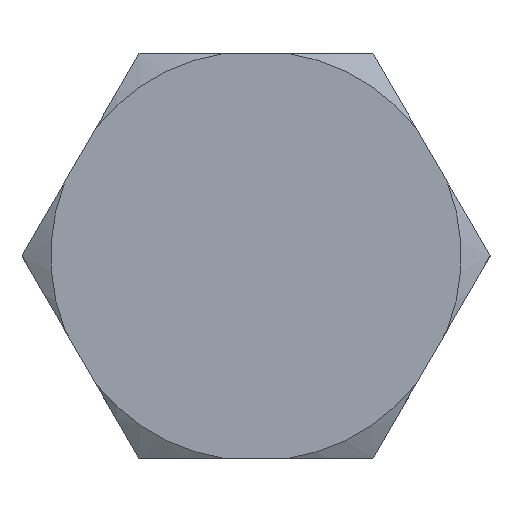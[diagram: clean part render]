
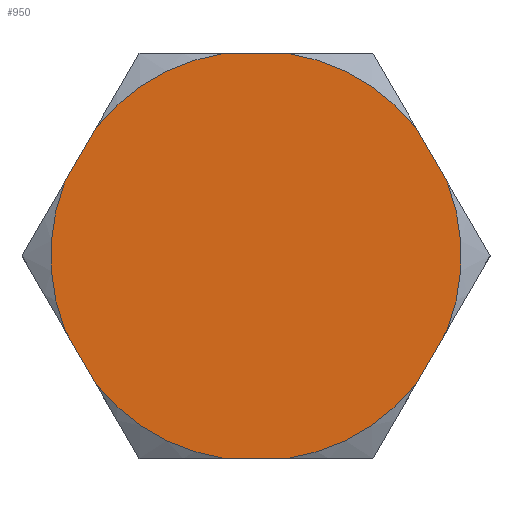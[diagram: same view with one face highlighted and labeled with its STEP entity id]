
A CAD part, top view. The second image highlights one B-rep face of the part: STEP entity #950.
In plain terms, the highlighted planar face has unit normal (0, 0, 1).
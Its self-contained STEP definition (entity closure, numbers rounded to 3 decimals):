
#164=CARTESIAN_POINT('',(-1.324,8.5,11.5));
#190=CARTESIAN_POINT('',(1.324,8.5,11.5));
#200=CARTESIAN_POINT('',(0.,0.,11.5));
#201=DIRECTION('',(0.,0.,1.));
#202=DIRECTION('',(0.933,-0.361,0.));
#203=AXIS2_PLACEMENT_3D('',#200,#201,#202);
#205=CARTESIAN_POINT('',(0.,0.,11.5));
#206=DIRECTION('',(0.,0.,1.));
#207=DIRECTION('',(-0.933,0.361,0.));
#208=AXIS2_PLACEMENT_3D('',#205,#206,#207);
#210=DIRECTION('',(0.5,0.866,0.));
#211=VECTOR('',#210,2.648);
#212=CARTESIAN_POINT('',(6.699,-5.397,11.5));
#213=LINE('',#212,#211);
#214=CARTESIAN_POINT('',(0.,0.,11.5));
#215=DIRECTION('',(0.,0.,-1.));
#216=DIRECTION('',(0.779,-0.627,0.));
#217=AXIS2_PLACEMENT_3D('',#214,#215,#216);
#219=DIRECTION('',(1.,0.,0.));
#220=VECTOR('',#219,2.648);
#221=CARTESIAN_POINT('',(-1.324,-8.5,11.5));
#222=LINE('',#221,#220);
#223=CARTESIAN_POINT('',(0.,0.,11.5));
#224=DIRECTION('',(0.,0.,-1.));
#225=DIRECTION('',(-0.154,-0.988,0.));
#226=AXIS2_PLACEMENT_3D('',#223,#224,#225);
#228=DIRECTION('',(0.5,-0.866,0.));
#229=VECTOR('',#228,2.648);
#230=CARTESIAN_POINT('',(-8.023,-3.103,11.5));
#231=LINE('',#230,#229);
#232=DIRECTION('',(-0.5,-0.866,0.));
#233=VECTOR('',#232,2.648);
#234=CARTESIAN_POINT('',(-6.699,5.397,11.5));
#235=LINE('',#234,#233);
#236=CARTESIAN_POINT('',(0.,0.,11.5));
#237=DIRECTION('',(0.,0.,-1.));
#238=DIRECTION('',(-0.779,0.627,0.));
#239=AXIS2_PLACEMENT_3D('',#236,#237,#238);
#241=DIRECTION('',(-1.,0.,0.));
#242=VECTOR('',#241,2.648);
#243=CARTESIAN_POINT('',(1.324,8.5,11.5));
#244=LINE('',#243,#242);
#245=CARTESIAN_POINT('',(0.,0.,11.5));
#246=DIRECTION('',(0.,0.,-1.));
#247=DIRECTION('',(0.154,0.988,0.));
#248=AXIS2_PLACEMENT_3D('',#245,#246,#247);
#250=DIRECTION('',(-0.5,0.866,0.));
#251=VECTOR('',#250,2.648);
#252=CARTESIAN_POINT('',(8.023,3.103,11.5));
#253=LINE('',#252,#251);
#262=CARTESIAN_POINT('',(8.023,-3.103,11.5));
#288=CARTESIAN_POINT('',(6.699,-5.397,11.5));
#306=CARTESIAN_POINT('',(6.699,5.397,11.5));
#332=CARTESIAN_POINT('',(8.023,3.103,11.5));
#350=CARTESIAN_POINT('',(1.324,-8.5,11.5));
#376=CARTESIAN_POINT('',(-1.324,-8.5,11.5));
#394=CARTESIAN_POINT('',(-6.699,-5.397,11.5));
#420=CARTESIAN_POINT('',(-8.023,-3.103,11.5));
#438=CARTESIAN_POINT('',(-8.023,3.103,11.5));
#464=CARTESIAN_POINT('',(-6.699,5.397,11.5));
#514=VERTEX_POINT('',#350);
#518=VERTEX_POINT('',#262);
#522=VERTEX_POINT('',#306);
#526=VERTEX_POINT('',#164);
#530=VERTEX_POINT('',#438);
#534=VERTEX_POINT('',#394);
#545=VERTEX_POINT('',#376);
#546=VERTEX_POINT('',#288);
#547=VERTEX_POINT('',#332);
#549=VERTEX_POINT('',#190);
#550=VERTEX_POINT('',#464);
#551=VERTEX_POINT('',#420);
#926=CARTESIAN_POINT('',(0.,0.,11.5));
#927=DIRECTION('',(0.,0.,1.));
#928=DIRECTION('',(1.,0.,0.));
#929=AXIS2_PLACEMENT_3D('',#926,#927,#928);
#930=PLANE('',#929);
#931=ORIENTED_EDGE('',*,*,#889,.F.);
#933=ORIENTED_EDGE('',*,*,#932,.F.);
#934=ORIENTED_EDGE('',*,*,#877,.T.);
#936=ORIENTED_EDGE('',*,*,#935,.F.);
#937=ORIENTED_EDGE('',*,*,#905,.T.);
#939=ORIENTED_EDGE('',*,*,#938,.F.);
#940=ORIENTED_EDGE('',*,*,#921,.F.);
#942=ORIENTED_EDGE('',*,*,#941,.F.);
#943=ORIENTED_EDGE('',*,*,#850,.T.);
#944=ORIENTED_EDGE('',*,*,#839,.F.);
#945=ORIENTED_EDGE('',*,*,#864,.T.);
#947=ORIENTED_EDGE('',*,*,#946,.F.);
#948=EDGE_LOOP('',(#931,#933,#934,#936,#937,#939,#940,#942,#943,#944,#945,
#947));
#949=FACE_OUTER_BOUND('',#948,.F.);
#950=ADVANCED_FACE('',(#949),#930,.T.);
#204=CIRCLE('',#203,8.603);
#209=CIRCLE('',#208,8.603);
#218=CIRCLE('',#217,8.603);
#227=CIRCLE('',#226,8.603);
#240=CIRCLE('',#239,8.603);
#249=CIRCLE('',#248,8.603);
#839=EDGE_CURVE('',#549,#526,#244,.T.);
#850=EDGE_CURVE('',#550,#526,#240,.T.);
#864=EDGE_CURVE('',#549,#522,#249,.T.);
#877=EDGE_CURVE('',#546,#514,#218,.T.);
#889=EDGE_CURVE('',#518,#547,#204,.T.);
#905=EDGE_CURVE('',#545,#534,#227,.T.);
#921=EDGE_CURVE('',#530,#551,#209,.T.);
#932=EDGE_CURVE('',#546,#518,#213,.T.);
#935=EDGE_CURVE('',#545,#514,#222,.T.);
#938=EDGE_CURVE('',#551,#534,#231,.T.);
#941=EDGE_CURVE('',#550,#530,#235,.T.);
#946=EDGE_CURVE('',#547,#522,#253,.T.);
